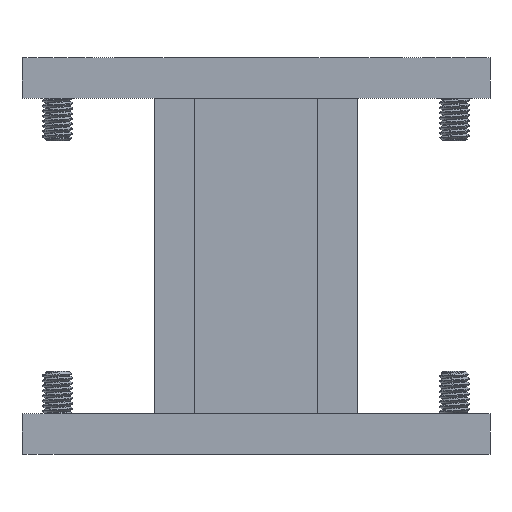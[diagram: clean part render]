
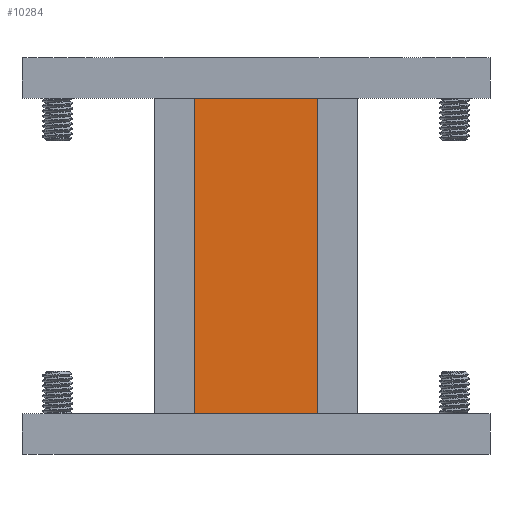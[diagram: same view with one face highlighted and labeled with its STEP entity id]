
A CAD part, front view. The second image highlights one B-rep face of the part: STEP entity #10284.
In plain terms, the highlighted planar face has unit normal (0, -1, 0).
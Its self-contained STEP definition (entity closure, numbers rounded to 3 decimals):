
#234 = VECTOR ( 'NONE', #12342, 1000. ) ;
#1975 = EDGE_CURVE ( 'NONE', #23177, #6746, #16065, .T. ) ;
#4744 = CARTESIAN_POINT ( 'NONE',  ( 9.15, 11.227, 28.706 ) ) ;
#4829 = FACE_OUTER_BOUND ( 'NONE', #25661, .T. ) ;
#5081 = DIRECTION ( 'NONE',  ( 1., 0., 0. ) ) ;
#6746 = VERTEX_POINT ( 'NONE', #21739 ) ;
#7466 = LINE ( 'NONE', #30672, #16578 ) ;
#8763 = CARTESIAN_POINT ( 'NONE',  ( 9.15, 11.227, 59.706 ) ) ;
#10284 = ADVANCED_FACE ( 'NONE', ( #4829 ), #23182, .F. ) ;
#10442 = DIRECTION ( 'NONE',  ( 1., 0., 0. ) ) ;
#12000 = ORIENTED_EDGE ( 'NONE', *, *, #1975, .F. ) ;
#12342 = DIRECTION ( 'NONE',  ( 0., 0., 1. ) ) ;
#13416 = VERTEX_POINT ( 'NONE', #8763 ) ;
#14101 = AXIS2_PLACEMENT_3D ( 'NONE', #28272, #22973, #25864 ) ;
#15076 = EDGE_CURVE ( 'NONE', #23177, #21166, #30772, .T. ) ;
#16065 = LINE ( 'NONE', #25127, #25528 ) ;
#16578 = VECTOR ( 'NONE', #5081, 1000. ) ;
#17995 = CARTESIAN_POINT ( 'NONE',  ( -6.85, 11.227, 28.706 ) ) ;
#19373 = ORIENTED_EDGE ( 'NONE', *, *, #15076, .T. ) ;
#19526 = CARTESIAN_POINT ( 'NONE',  ( -2.85, 11.227, 28.706 ) ) ;
#20954 = EDGE_CURVE ( 'NONE', #6746, #13416, #7466, .T. ) ;
#21166 = VERTEX_POINT ( 'NONE', #28770 ) ;
#21739 = CARTESIAN_POINT ( 'NONE',  ( -2.85, 11.227, 59.706 ) ) ;
#22355 = DIRECTION ( 'NONE',  ( 0., 0., 1. ) ) ;
#22583 = EDGE_CURVE ( 'NONE', #21166, #13416, #24705, .T. ) ;
#22838 = VECTOR ( 'NONE', #10442, 1000. ) ;
#22973 = DIRECTION ( 'NONE',  ( 0., 1., 0. ) ) ;
#23177 = VERTEX_POINT ( 'NONE', #19526 ) ;
#23182 = PLANE ( 'NONE',  #14101 ) ;
#24705 = LINE ( 'NONE', #4744, #234 ) ;
#25127 = CARTESIAN_POINT ( 'NONE',  ( -2.85, 11.227, 28.706 ) ) ;
#25528 = VECTOR ( 'NONE', #22355, 1000. ) ;
#25661 = EDGE_LOOP ( 'NONE', ( #19373, #26267, #31703, #12000 ) ) ;
#25864 = DIRECTION ( 'NONE',  ( 0., 0., 1. ) ) ;
#26267 = ORIENTED_EDGE ( 'NONE', *, *, #22583, .T. ) ;
#28272 = CARTESIAN_POINT ( 'NONE',  ( -6.85, 11.227, 59.706 ) ) ;
#28770 = CARTESIAN_POINT ( 'NONE',  ( 9.15, 11.227, 28.706 ) ) ;
#30672 = CARTESIAN_POINT ( 'NONE',  ( -6.85, 11.227, 59.706 ) ) ;
#30772 = LINE ( 'NONE', #17995, #22838 ) ;
#31703 = ORIENTED_EDGE ( 'NONE', *, *, #20954, .F. ) ;
